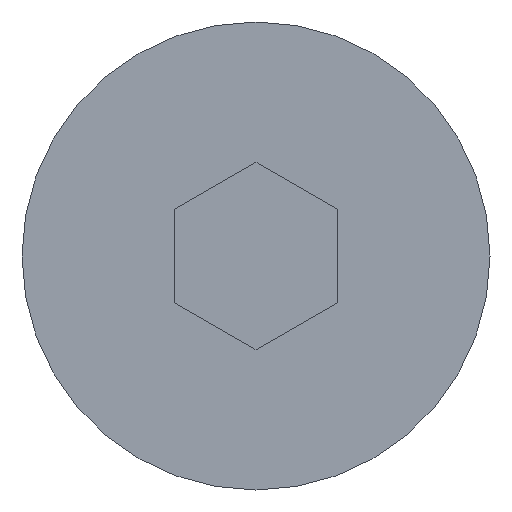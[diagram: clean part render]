
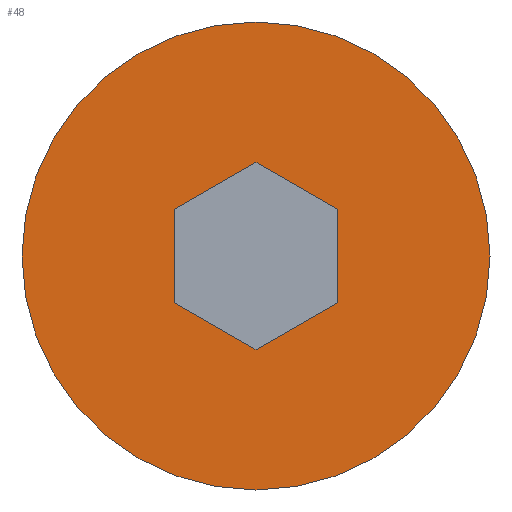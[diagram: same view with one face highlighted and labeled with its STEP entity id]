
A CAD part, left-side view. The second image highlights one B-rep face of the part: STEP entity #48.
In plain terms, the highlighted planar face has unit normal (-1, 0, 0).
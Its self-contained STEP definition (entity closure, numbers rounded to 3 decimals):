
#14 = DIRECTION ( 'NONE',  ( 0., 0., -1. ) ) ;
#21 = EDGE_LOOP ( 'NONE', ( #325, #38 ) ) ;
#29 = DIRECTION ( 'NONE',  ( -1., 0., 0. ) ) ;
#32 = CARTESIAN_POINT ( 'NONE',  ( 0., 0., 0. ) ) ;
#34 = EDGE_CURVE ( 'NONE', #402, #156, #202, .T. ) ;
#38 = ORIENTED_EDGE ( 'NONE', *, *, #94, .T. ) ;
#44 = VERTEX_POINT ( 'NONE', #358 ) ;
#48 = ADVANCED_FACE ( 'NONE', ( #506, #395 ), #476, .F. ) ;
#49 = VECTOR ( 'NONE', #383, 1000. ) ;
#60 = DIRECTION ( 'NONE',  ( 0., 0., 1. ) ) ;
#71 = DIRECTION ( 'NONE',  ( 0., 0., 1. ) ) ;
#88 = DIRECTION ( 'NONE',  ( 0., 0.866, -0.5 ) ) ;
#92 = VERTEX_POINT ( 'NONE', #305 ) ;
#94 = EDGE_CURVE ( 'NONE', #104, #394, #464, .T. ) ;
#104 = VERTEX_POINT ( 'NONE', #463 ) ;
#132 = EDGE_CURVE ( 'NONE', #201, #44, #237, .T. ) ;
#135 = AXIS2_PLACEMENT_3D ( 'NONE', #32, #283, #238 ) ;
#154 = DIRECTION ( 'NONE',  ( -1., 0., 0. ) ) ;
#156 = VERTEX_POINT ( 'NONE', #467 ) ;
#171 = ORIENTED_EDGE ( 'NONE', *, *, #132, .F. ) ;
#173 = CARTESIAN_POINT ( 'NONE',  ( 0., -1.732, -1. ) ) ;
#176 = LINE ( 'NONE', #198, #396 ) ;
#178 = EDGE_CURVE ( 'NONE', #394, #104, #381, .T. ) ;
#184 = DIRECTION ( 'NONE',  ( 0., 0.866, 0.5 ) ) ;
#190 = CARTESIAN_POINT ( 'NONE',  ( 0., 1.732, -1. ) ) ;
#198 = CARTESIAN_POINT ( 'NONE',  ( 0., 0., 2. ) ) ;
#201 = VERTEX_POINT ( 'NONE', #190 ) ;
#202 = LINE ( 'NONE', #317, #290 ) ;
#205 = EDGE_CURVE ( 'NONE', #44, #402, #368, .T. ) ;
#207 = EDGE_CURVE ( 'NONE', #92, #263, #176, .T. ) ;
#218 = CARTESIAN_POINT ( 'NONE',  ( 0., 1.732, 1. ) ) ;
#233 = CARTESIAN_POINT ( 'NONE',  ( 0., 0., -2. ) ) ;
#237 = LINE ( 'NONE', #268, #49 ) ;
#238 = DIRECTION ( 'NONE',  ( 0., 0., -1. ) ) ;
#243 = AXIS2_PLACEMENT_3D ( 'NONE', #497, #154, #71 ) ;
#256 = EDGE_CURVE ( 'NONE', #156, #92, #341, .T. ) ;
#263 = VERTEX_POINT ( 'NONE', #218 ) ;
#267 = VECTOR ( 'NONE', #379, 1000. ) ;
#268 = CARTESIAN_POINT ( 'NONE',  ( 0., 1.732, -1. ) ) ;
#283 = DIRECTION ( 'NONE',  ( 1., 0., 0. ) ) ;
#287 = ORIENTED_EDGE ( 'NONE', *, *, #256, .F. ) ;
#290 = VECTOR ( 'NONE', #60, 1000. ) ;
#295 = VECTOR ( 'NONE', #14, 1000. ) ;
#305 = CARTESIAN_POINT ( 'NONE',  ( 0., 0., 2. ) ) ;
#309 = EDGE_CURVE ( 'NONE', #263, #201, #399, .T. ) ;
#314 = EDGE_LOOP ( 'NONE', ( #373, #287, #316, #421, #171, #407 ) ) ;
#316 = ORIENTED_EDGE ( 'NONE', *, *, #34, .F. ) ;
#317 = CARTESIAN_POINT ( 'NONE',  ( 0., -1.732, -1. ) ) ;
#325 = ORIENTED_EDGE ( 'NONE', *, *, #178, .T. ) ;
#341 = LINE ( 'NONE', #458, #455 ) ;
#358 = CARTESIAN_POINT ( 'NONE',  ( 0., 0., -2. ) ) ;
#368 = LINE ( 'NONE', #233, #267 ) ;
#373 = ORIENTED_EDGE ( 'NONE', *, *, #207, .F. ) ;
#379 = DIRECTION ( 'NONE',  ( 0., -0.866, 0.5 ) ) ;
#381 = CIRCLE ( 'NONE', #430, 5. ) ;
#383 = DIRECTION ( 'NONE',  ( 0., -0.866, -0.5 ) ) ;
#394 = VERTEX_POINT ( 'NONE', #450 ) ;
#395 = FACE_OUTER_BOUND ( 'NONE', #21, .T. ) ;
#396 = VECTOR ( 'NONE', #88, 1000. ) ;
#399 = LINE ( 'NONE', #456, #295 ) ;
#402 = VERTEX_POINT ( 'NONE', #173 ) ;
#407 = ORIENTED_EDGE ( 'NONE', *, *, #309, .F. ) ;
#421 = ORIENTED_EDGE ( 'NONE', *, *, #205, .F. ) ;
#430 = AXIS2_PLACEMENT_3D ( 'NONE', #504, #29, #472 ) ;
#450 = CARTESIAN_POINT ( 'NONE',  ( 0., 0., 5. ) ) ;
#455 = VECTOR ( 'NONE', #184, 1000. ) ;
#456 = CARTESIAN_POINT ( 'NONE',  ( 0., 1.732, 1. ) ) ;
#458 = CARTESIAN_POINT ( 'NONE',  ( 0., -1.732, 1. ) ) ;
#463 = CARTESIAN_POINT ( 'NONE',  ( 0., 0., -5. ) ) ;
#464 = CIRCLE ( 'NONE', #243, 5. ) ;
#467 = CARTESIAN_POINT ( 'NONE',  ( 0., -1.732, 1. ) ) ;
#472 = DIRECTION ( 'NONE',  ( 0., 0., 1. ) ) ;
#476 = PLANE ( 'NONE',  #135 ) ;
#497 = CARTESIAN_POINT ( 'NONE',  ( 0., 0., 0. ) ) ;
#504 = CARTESIAN_POINT ( 'NONE',  ( 0., 0., 0. ) ) ;
#506 = FACE_BOUND ( 'NONE', #314, .T. ) ;
